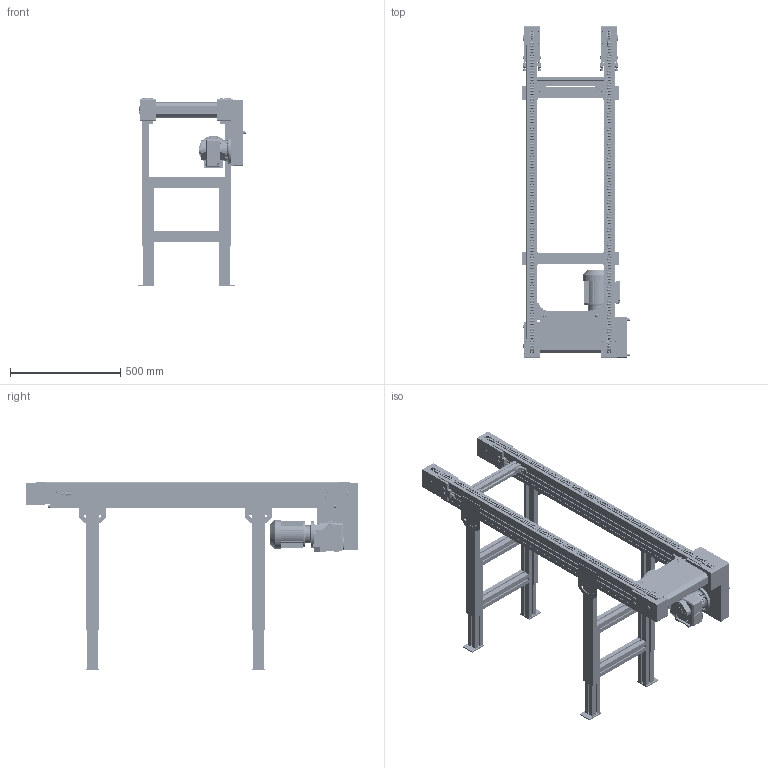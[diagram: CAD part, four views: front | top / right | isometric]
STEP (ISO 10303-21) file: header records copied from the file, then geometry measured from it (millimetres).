
FILE_DESCRIPTION(/* description */ (''),/* implementation_level */ '2;1');
FILE_NAME(/* name */ 'C:\Marketing\01_Versamove-SPU_STEP-Dateien-Homepage\Versamove plus\STEP-Dateien\Kettenförderer_KTF-P-2010_B400_L1500.stp',/* time_stamp */ '2016-12-22T09:54:24+01:00',/* author */ ('herbert.engels'),/* organization */ (''),/* preprocessor_version */ 'ST-DEVELOPER v15.6',/* originating_system */ 'Autodesk Inventor 2015',/* authorisation */ '');
FILE_SCHEMA (('CONFIG_CONTROL_DESIGN'));
Products named in the file (1): Kettenförderer_KTF-P-2010_B400_L1500
Bounding box: 490.6 x 1503 x 852.54 mm (x, y, z)
Volume: 30087589.9 mm3; surface area: 4878298.8 mm2
Topology: 13 solids, 13 shells, 6771 faces, 17900 edges, 11620 vertices
Faces by surface type: plane 3607, cylinder 2750, torus 214, cone 169, bspline 23, sphere 8
Full cylindrical faces by diameter (mm): 2 x2, 4.45 x438, 5.459 x4, 6 x21, 6.6 x4, 7 x8, 8 x39, 8.51 x224, 8.8 x19, 9.5 x2, 11.8 x440, 12 x6, 13 x12, 14 x3, 16.2 x4, 19 x3, 20 x6, 24 x1, 25 x1, 25.5 x4, 35 x12, 37 x1, 38 x1, 40 x4, 43 x1, 52 x1, 56 x2, 62 x2, 73 x8, 80 x3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
Entity records: 211051 total; most frequent: CARTESIAN_POINT 39523, DIRECTION 35095, ORIENTED_EDGE 32410, EDGE_CURVE 15984, AXIS2_PLACEMENT_3D 13464, VERTEX_POINT 11085, EDGE_LOOP 9628, LINE 8167
